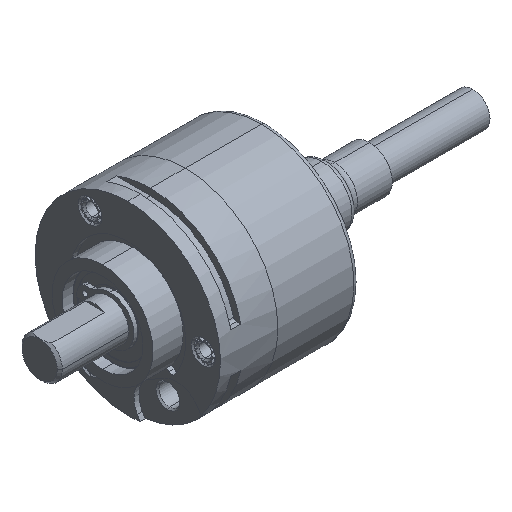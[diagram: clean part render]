
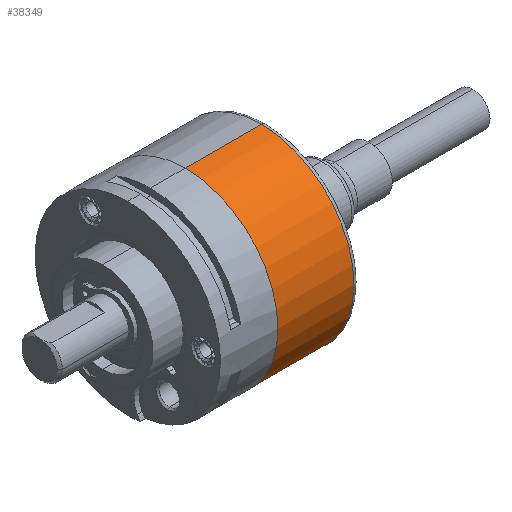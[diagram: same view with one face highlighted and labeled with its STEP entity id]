
A CAD part, isometric view. The second image highlights one B-rep face of the part: STEP entity #38349.
In plain terms, the highlighted cylindrical face has radius 18.4 mm (diameter 36.8 mm), a partial arc.
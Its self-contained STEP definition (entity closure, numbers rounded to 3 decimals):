
#6172 = CARTESIAN_POINT ( 'NONE',  ( 16.455, -2.838, -18.4 ) ) ;
#6306 = CARTESIAN_POINT ( 'NONE',  ( 16.455, -2.838, 18.4 ) ) ;
#37826 = EDGE_CURVE ( 'NONE', #43621, #37921, #47524, .T. ) ;
#37879 = EDGE_CURVE ( 'NONE', #43665, #37904, #47681, .T. ) ;
#37904 = VERTEX_POINT ( 'NONE', #47759 ) ;
#37921 = VERTEX_POINT ( 'NONE', #47903 ) ;
#38131 = EDGE_LOOP ( 'NONE', ( #38214, #38215, #38345, #38275 ) ) ;
#38142 = EDGE_CURVE ( 'NONE', #37921, #37904, #48730, .T. ) ;
#38187 = EDGE_CURVE ( 'NONE', #43621, #43665, #48784, .T. ) ;
#38214 = ORIENTED_EDGE ( 'NONE', *, *, #37826, .F. ) ;
#38215 = ORIENTED_EDGE ( 'NONE', *, *, #38187, .T. ) ;
#38275 = ORIENTED_EDGE ( 'NONE', *, *, #38142, .F. ) ;
#38345 = ORIENTED_EDGE ( 'NONE', *, *, #37879, .T. ) ;
#38349 = ADVANCED_FACE ( 'NONE', ( #50507 ), #50573, .T. ) ;
#43621 = VERTEX_POINT ( 'NONE', #6172 ) ;
#43665 = VERTEX_POINT ( 'NONE', #6306 ) ;
#47521 = DIRECTION ( 'NONE',  ( -1., 0., 0. ) ) ;
#47522 = VECTOR ( 'NONE', #47521, 1000. ) ;
#47523 = CARTESIAN_POINT ( 'NONE',  ( 1.955, -2.838, -18.4 ) ) ;
#47524 = LINE ( 'NONE', #47523, #47522 ) ;
#47676 = DIRECTION ( 'NONE',  ( -1., 0., 0. ) ) ;
#47678 = VECTOR ( 'NONE', #47676, 1000. ) ;
#47680 = CARTESIAN_POINT ( 'NONE',  ( 1.955, -2.838, 18.4 ) ) ;
#47681 = LINE ( 'NONE', #47680, #47678 ) ;
#47759 = CARTESIAN_POINT ( 'NONE',  ( 1.355, -2.838, 18.4 ) ) ;
#47903 = CARTESIAN_POINT ( 'NONE',  ( 1.355, -2.838, -18.4 ) ) ;
#48726 = DIRECTION ( 'NONE',  ( 0., 0., 1. ) ) ;
#48727 = DIRECTION ( 'NONE',  ( -1., 0., 0. ) ) ;
#48728 = CARTESIAN_POINT ( 'NONE',  ( 1.355, -2.838, 0. ) ) ;
#48729 = AXIS2_PLACEMENT_3D ( 'NONE', #48728, #48727, #48726 ) ;
#48730 = CIRCLE ( 'NONE', #48729, 18.4 ) ;
#48775 = DIRECTION ( 'NONE',  ( 0., 0., 1. ) ) ;
#48777 = DIRECTION ( 'NONE',  ( -1., 0., 0. ) ) ;
#48778 = CARTESIAN_POINT ( 'NONE',  ( 16.455, -2.838, 0. ) ) ;
#48779 = AXIS2_PLACEMENT_3D ( 'NONE', #48778, #48777, #48775 ) ;
#48784 = CIRCLE ( 'NONE', #48779, 18.4 ) ;
#50507 = FACE_OUTER_BOUND ( 'NONE', #38131, .T. ) ;
#50569 = DIRECTION ( 'NONE',  ( 0., 0., 1. ) ) ;
#50571 = DIRECTION ( 'NONE',  ( -1., 0., 0. ) ) ;
#50572 = AXIS2_PLACEMENT_3D ( 'NONE', #50577, #50571, #50569 ) ;
#50573 = CYLINDRICAL_SURFACE ( 'NONE', #50572, 18.4 ) ;
#50577 = CARTESIAN_POINT ( 'NONE',  ( 1.955, -2.838, 0. ) ) ;
